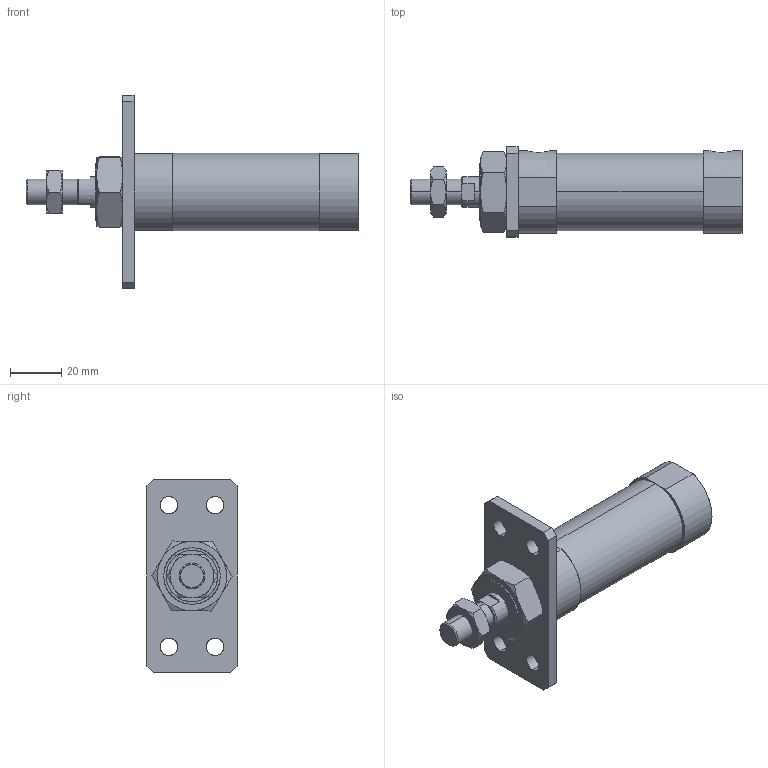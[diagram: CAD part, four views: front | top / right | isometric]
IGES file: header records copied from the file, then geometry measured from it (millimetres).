
Start section: SolidWorks IGES file using analytic representation for surfaces
Global section: file name: C:\Users\Toshiba\Desktop\JGND2-25-25-A.IGS; native system: SolidWorks 2014; preprocessor: SolidWorks 2014; author: Toshiba; date: 160804.103420; units: millimetre
Bounding box: 129 x 35 x 75 mm (x, y, z)
Surface area: 22054.5 mm2 (no closed solid volume)
Topology: 0 solids, 0 shells, 109 faces, 2000 edges, 1996 vertices
Faces by surface type: bspline 69, revolution 40
